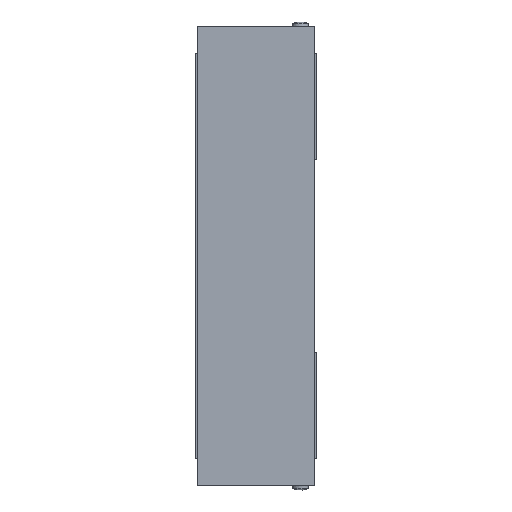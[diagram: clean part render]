
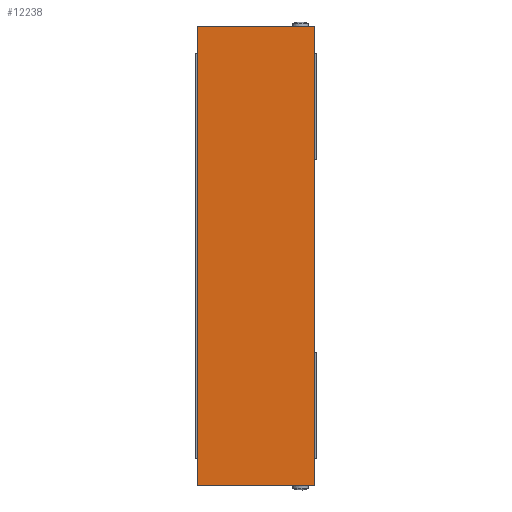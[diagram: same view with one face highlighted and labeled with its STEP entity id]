
A CAD part, left-side view. The second image highlights one B-rep face of the part: STEP entity #12238.
In plain terms, the highlighted planar face has unit normal (-1, 0, 0).
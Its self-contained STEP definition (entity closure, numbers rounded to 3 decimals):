
#12171 = VERTEX_POINT ( 'NONE', #21705 ) ;
#12172 = VERTEX_POINT ( 'NONE', #21704 ) ;
#12173 = ORIENTED_EDGE ( 'NONE', *, *, #12174, .T. ) ;
#12174 = EDGE_CURVE ( 'NONE', #12172, #12175, #21703, .T. ) ;
#12175 = VERTEX_POINT ( 'NONE', #21699 ) ;
#12176 = ORIENTED_EDGE ( 'NONE', *, *, #12177, .T. ) ;
#12177 = EDGE_CURVE ( 'NONE', #12175, #12178, #21698, .T. ) ;
#12178 = VERTEX_POINT ( 'NONE', #21694 ) ;
#12179 = ORIENTED_EDGE ( 'NONE', *, *, #12180, .T. ) ;
#12180 = EDGE_CURVE ( 'NONE', #12178, #12171, #21693, .T. ) ;
#12238 = ADVANCED_FACE ( 'NONE', ( #21842 ), #21876, .F. ) ;
#12239 = EDGE_LOOP ( 'NONE', ( #12240, #12173, #12176, #12179 ) ) ;
#12240 = ORIENTED_EDGE ( 'NONE', *, *, #12241, .T. ) ;
#12241 = EDGE_CURVE ( 'NONE', #12171, #12172, #21871, .T. ) ;
#21690 = DIRECTION ( 'NONE',  ( 0., 0., -1. ) ) ;
#21691 = VECTOR ( 'NONE', #21690, 1000. ) ;
#21692 = CARTESIAN_POINT ( 'NONE',  ( -206., 59., -113. ) ) ;
#21693 = LINE ( 'NONE', #21692, #21691 ) ;
#21694 = CARTESIAN_POINT ( 'NONE',  ( -206., 59., 113. ) ) ;
#21695 = DIRECTION ( 'NONE',  ( 0., 1., 0. ) ) ;
#21696 = VECTOR ( 'NONE', #21695, 1000. ) ;
#21697 = CARTESIAN_POINT ( 'NONE',  ( -206., 1., 113. ) ) ;
#21698 = LINE ( 'NONE', #21697, #21696 ) ;
#21699 = CARTESIAN_POINT ( 'NONE',  ( -206., 1., 113. ) ) ;
#21700 = DIRECTION ( 'NONE',  ( 0., 0., 1. ) ) ;
#21701 = VECTOR ( 'NONE', #21700, 1000. ) ;
#21702 = CARTESIAN_POINT ( 'NONE',  ( -206., 1., -113. ) ) ;
#21703 = LINE ( 'NONE', #21702, #21701 ) ;
#21704 = CARTESIAN_POINT ( 'NONE',  ( -206., 1., -113. ) ) ;
#21705 = CARTESIAN_POINT ( 'NONE',  ( -206., 59., -113. ) ) ;
#21842 = FACE_OUTER_BOUND ( 'NONE', #12239, .T. ) ;
#21868 = DIRECTION ( 'NONE',  ( 0., -1., 0. ) ) ;
#21869 = VECTOR ( 'NONE', #21868, 1000. ) ;
#21870 = CARTESIAN_POINT ( 'NONE',  ( -206., 1., -113. ) ) ;
#21871 = LINE ( 'NONE', #21870, #21869 ) ;
#21872 = DIRECTION ( 'NONE',  ( 0., 0., -1. ) ) ;
#21873 = DIRECTION ( 'NONE',  ( 1., 0., 0. ) ) ;
#21874 = CARTESIAN_POINT ( 'NONE',  ( -206., 59., -113. ) ) ;
#21875 = AXIS2_PLACEMENT_3D ( 'NONE', #21874, #21873, #21872 ) ;
#21876 = PLANE ( 'NONE',  #21875 ) ;
